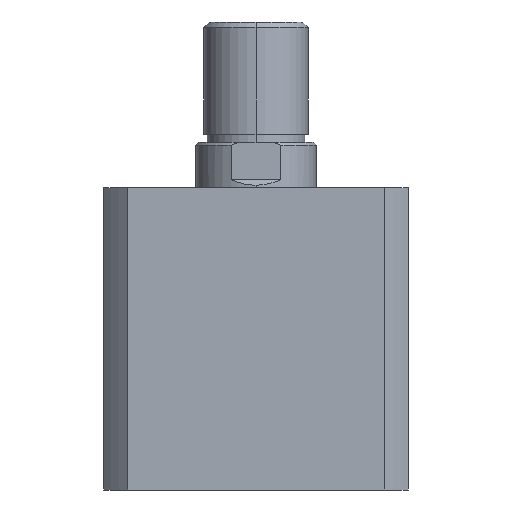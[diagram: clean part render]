
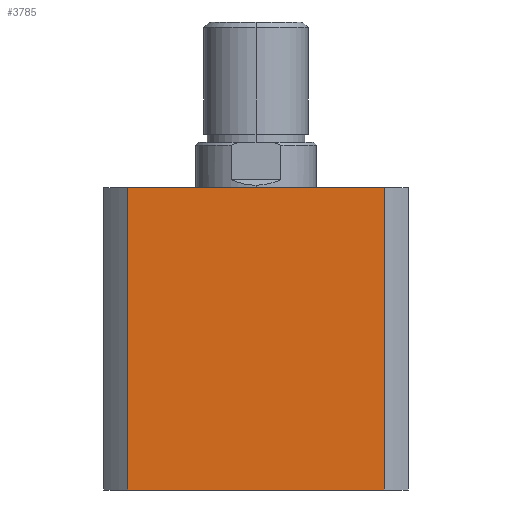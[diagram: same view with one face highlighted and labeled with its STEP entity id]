
A CAD part, left-side view. The second image highlights one B-rep face of the part: STEP entity #3785.
In plain terms, the highlighted planar face has unit normal (-1, 0, 0).
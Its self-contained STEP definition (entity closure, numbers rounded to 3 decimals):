
#40 = DIRECTION ( 'NONE',  ( 0., 0., -1. ) ) ;
#54 = DIRECTION ( 'NONE',  ( 1., 0., 0. ) ) ;
#95 = CARTESIAN_POINT ( 'NONE',  ( -57., 0., 113. ) ) ;
#101 = PLANE ( 'NONE',  #1915 ) ;
#390 = DIRECTION ( 'NONE',  ( 0., -1., 0. ) ) ;
#393 = CARTESIAN_POINT ( 'NONE',  ( -57., 0., 113. ) ) ;
#412 = DIRECTION ( 'NONE',  ( 0., 0., -1. ) ) ;
#414 = CARTESIAN_POINT ( 'NONE',  ( -57., 47.971, 113. ) ) ;
#452 = CARTESIAN_POINT ( 'NONE',  ( -57., -47.971, 113. ) ) ;
#461 = DIRECTION ( 'NONE',  ( 0., 0., -1. ) ) ;
#992 = VERTEX_POINT ( 'NONE', #2067 ) ;
#998 = VERTEX_POINT ( 'NONE', #2061 ) ;
#1179 = LINE ( 'NONE', #4150, #1183 ) ;
#1183 = VECTOR ( 'NONE', #4151, 1000. ) ;
#1221 = LINE ( 'NONE', #414, #1224 ) ;
#1224 = VECTOR ( 'NONE', #412, 1000. ) ;
#1225 = LINE ( 'NONE', #452, #1227 ) ;
#1226 = LINE ( 'NONE', #393, #1229 ) ;
#1227 = VECTOR ( 'NONE', #461, 1000. ) ;
#1229 = VECTOR ( 'NONE', #390, 1000. ) ;
#1358 = EDGE_LOOP ( 'NONE', ( #2526, #2525, #2524, #2523 ) ) ;
#1583 = EDGE_CURVE ( 'NONE', #2455, #992, #1179, .T. ) ;
#1615 = EDGE_CURVE ( 'NONE', #2406, #2455, #1221, .T. ) ;
#1617 = EDGE_CURVE ( 'NONE', #998, #992, #1225, .T. ) ;
#1618 = EDGE_CURVE ( 'NONE', #2406, #998, #1226, .T. ) ;
#1915 = AXIS2_PLACEMENT_3D ( 'NONE', #95, #54, #40 ) ;
#2061 = CARTESIAN_POINT ( 'NONE',  ( -57., -47.971, 113. ) ) ;
#2067 = CARTESIAN_POINT ( 'NONE',  ( -57., -47.971, 0. ) ) ;
#2406 = VERTEX_POINT ( 'NONE', #3134 ) ;
#2455 = VERTEX_POINT ( 'NONE', #3076 ) ;
#2523 = ORIENTED_EDGE ( 'NONE', *, *, #1615, .T. ) ;
#2524 = ORIENTED_EDGE ( 'NONE', *, *, #1618, .F. ) ;
#2525 = ORIENTED_EDGE ( 'NONE', *, *, #1617, .F. ) ;
#2526 = ORIENTED_EDGE ( 'NONE', *, *, #1583, .T. ) ;
#3076 = CARTESIAN_POINT ( 'NONE',  ( -57., 47.971, 0. ) ) ;
#3134 = CARTESIAN_POINT ( 'NONE',  ( -57., 47.971, 113. ) ) ;
#3296 = FACE_OUTER_BOUND ( 'NONE', #1358, .T. ) ;
#3785 = ADVANCED_FACE ( 'NONE', ( #3296 ), #101, .F. ) ;
#4150 = CARTESIAN_POINT ( 'NONE',  ( -57., 0., 0. ) ) ;
#4151 = DIRECTION ( 'NONE',  ( 0., -1., 0. ) ) ;
